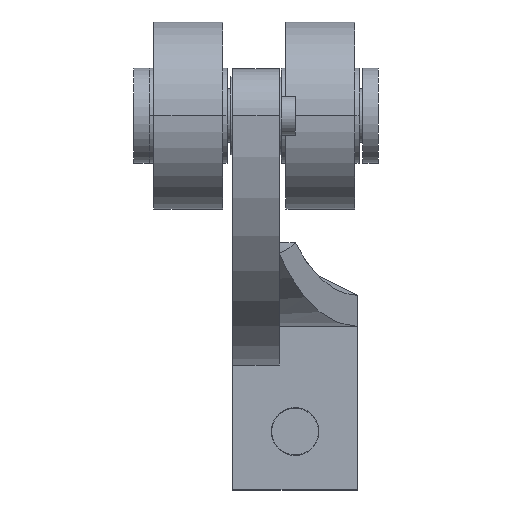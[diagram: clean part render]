
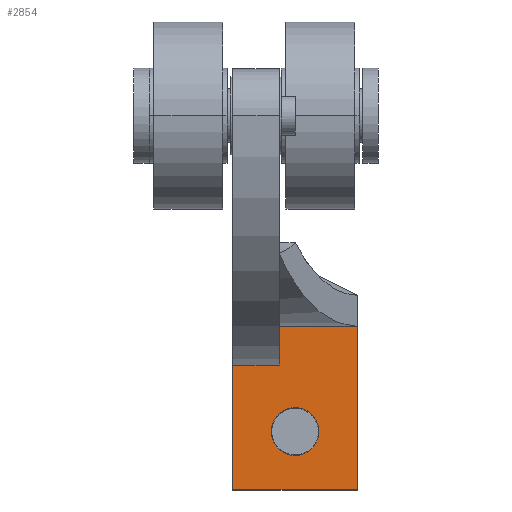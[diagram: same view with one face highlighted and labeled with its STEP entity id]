
A CAD part, left-side view. The second image highlights one B-rep face of the part: STEP entity #2854.
In plain terms, the highlighted planar face has unit normal (-1, 0, 0).
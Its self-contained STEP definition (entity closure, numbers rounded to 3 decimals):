
#1319 = DIRECTION ( 'NONE',  ( 0., 0., 1. ) ) ;
#1320 = DIRECTION ( 'NONE',  ( 1., 0., 0. ) ) ;
#1321 = CARTESIAN_POINT ( 'NONE',  ( -7.938, -3.962, -5.169 ) ) ;
#1322 = AXIS2_PLACEMENT_3D ( 'NONE', #1321, #1320, #1319 ) ;
#1323 = CIRCLE ( 'NONE', #1322, 2.426 ) ;
#2051 = CARTESIAN_POINT ( 'NONE',  ( -7.938, -3.962, -7.595 ) ) ;
#2067 = CARTESIAN_POINT ( 'NONE',  ( -7.938, -3.962, -2.743 ) ) ;
#2069 = DIRECTION ( 'NONE',  ( 0., 0., 1. ) ) ;
#2070 = DIRECTION ( 'NONE',  ( 1., 0., 0. ) ) ;
#2071 = CARTESIAN_POINT ( 'NONE',  ( -7.938, -3.962, -5.169 ) ) ;
#2072 = AXIS2_PLACEMENT_3D ( 'NONE', #2071, #2070, #2069 ) ;
#2073 = CIRCLE ( 'NONE', #2072, 2.426 ) ;
#2661 = EDGE_CURVE ( 'NONE', #2662, #2712, #3475, .T. ) ;
#2662 = VERTEX_POINT ( 'NONE', #3471 ) ;
#2697 = VERTEX_POINT ( 'NONE', #3721 ) ;
#2712 = VERTEX_POINT ( 'NONE', #3765 ) ;
#2718 = ORIENTED_EDGE ( 'NONE', *, *, #3080, .F. ) ;
#2732 = EDGE_CURVE ( 'NONE', #2733, #2662, #3746, .T. ) ;
#2733 = VERTEX_POINT ( 'NONE', #3742 ) ;
#2798 = EDGE_LOOP ( 'NONE', ( #2855, #2856, #2857, #2858, #2859, #2718 ) ) ;
#2828 = VERTEX_POINT ( 'NONE', #4614 ) ;
#2830 = EDGE_CURVE ( 'NONE', #2712, #2828, #4613, .T. ) ;
#2853 = EDGE_CURVE ( 'NONE', #2697, #2733, #4576, .T. ) ;
#2854 = ADVANCED_FACE ( 'NONE', ( #4572, #4571 ), #4549, .T. ) ;
#2855 = ORIENTED_EDGE ( 'NONE', *, *, #2853, .T. ) ;
#2856 = ORIENTED_EDGE ( 'NONE', *, *, #2732, .T. ) ;
#2857 = ORIENTED_EDGE ( 'NONE', *, *, #2661, .T. ) ;
#2858 = ORIENTED_EDGE ( 'NONE', *, *, #2830, .T. ) ;
#2859 = ORIENTED_EDGE ( 'NONE', *, *, #2860, .F. ) ;
#2860 = EDGE_CURVE ( 'NONE', #2861, #2828, #4544, .T. ) ;
#2861 = VERTEX_POINT ( 'NONE', #4540 ) ;
#3034 = ORIENTED_EDGE ( 'NONE', *, *, #4381, .T. ) ;
#3035 = ORIENTED_EDGE ( 'NONE', *, *, #4188, .T. ) ;
#3046 = EDGE_LOOP ( 'NONE', ( #3034, #3035 ) ) ;
#3080 = EDGE_CURVE ( 'NONE', #2697, #2861, #5301, .T. ) ;
#3471 = CARTESIAN_POINT ( 'NONE',  ( -7.937, -10.312, 5.503 ) ) ;
#3472 = DIRECTION ( 'NONE',  ( 0., 1., 0. ) ) ;
#3473 = VECTOR ( 'NONE', #3472, 1000. ) ;
#3474 = CARTESIAN_POINT ( 'NONE',  ( -7.938, 2.388, 5.503 ) ) ;
#3475 = LINE ( 'NONE', #3474, #3473 ) ;
#3721 = CARTESIAN_POINT ( 'NONE',  ( -7.938, 2.388, -11.113 ) ) ;
#3742 = CARTESIAN_POINT ( 'NONE',  ( -7.938, -10.312, -11.112 ) ) ;
#3743 = DIRECTION ( 'NONE',  ( 0., 0., 1. ) ) ;
#3744 = VECTOR ( 'NONE', #3743, 1000. ) ;
#3745 = CARTESIAN_POINT ( 'NONE',  ( -7.938, -10.312, -11.112 ) ) ;
#3746 = LINE ( 'NONE', #3745, #3744 ) ;
#3765 = CARTESIAN_POINT ( 'NONE',  ( -7.937, -2.362, 5.503 ) ) ;
#4188 = EDGE_CURVE ( 'NONE', #4388, #4385, #1323, .T. ) ;
#4381 = EDGE_CURVE ( 'NONE', #4385, #4388, #2073, .T. ) ;
#4385 = VERTEX_POINT ( 'NONE', #2067 ) ;
#4388 = VERTEX_POINT ( 'NONE', #2051 ) ;
#4540 = CARTESIAN_POINT ( 'NONE',  ( -7.938, 2.388, 1.594 ) ) ;
#4541 = DIRECTION ( 'NONE',  ( 0., -1., 0. ) ) ;
#4542 = VECTOR ( 'NONE', #4541, 1000. ) ;
#4543 = CARTESIAN_POINT ( 'NONE',  ( -7.938, 2.388, 1.594 ) ) ;
#4544 = LINE ( 'NONE', #4543, #4542 ) ;
#4545 = DIRECTION ( 'NONE',  ( 0., -1., 0. ) ) ;
#4546 = DIRECTION ( 'NONE',  ( -1., 0., 0. ) ) ;
#4547 = CARTESIAN_POINT ( 'NONE',  ( -7.938, 2.388, -11.112 ) ) ;
#4548 = AXIS2_PLACEMENT_3D ( 'NONE', #4547, #4546, #4545 ) ;
#4549 = PLANE ( 'NONE',  #4548 ) ;
#4571 = FACE_BOUND ( 'NONE', #3046, .T. ) ;
#4572 = FACE_OUTER_BOUND ( 'NONE', #2798, .T. ) ;
#4573 = DIRECTION ( 'NONE',  ( 0., -1., 0. ) ) ;
#4574 = VECTOR ( 'NONE', #4573, 1000. ) ;
#4575 = CARTESIAN_POINT ( 'NONE',  ( -7.938, 2.388, -11.112 ) ) ;
#4576 = LINE ( 'NONE', #4575, #4574 ) ;
#4611 = VECTOR ( 'NONE', #4620, 1000. ) ;
#4612 = CARTESIAN_POINT ( 'NONE',  ( -7.938, -2.362, -11.112 ) ) ;
#4613 = LINE ( 'NONE', #4612, #4611 ) ;
#4614 = CARTESIAN_POINT ( 'NONE',  ( -7.938, -2.362, 1.594 ) ) ;
#4620 = DIRECTION ( 'NONE',  ( 0., 0., -1. ) ) ;
#5298 = DIRECTION ( 'NONE',  ( 0., 0., 1. ) ) ;
#5299 = VECTOR ( 'NONE', #5298, 1000. ) ;
#5300 = CARTESIAN_POINT ( 'NONE',  ( -7.938, 2.388, 17.67 ) ) ;
#5301 = LINE ( 'NONE', #5300, #5299 ) ;
